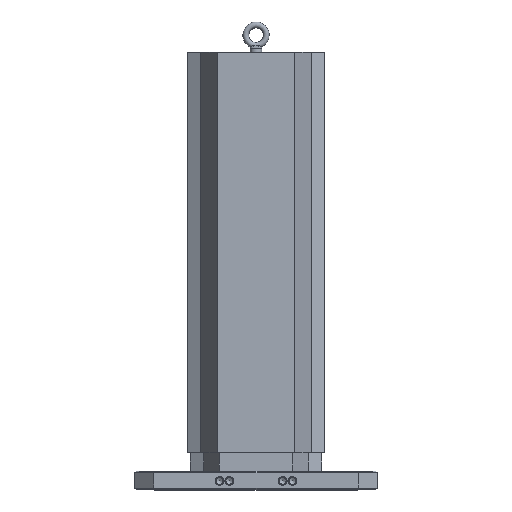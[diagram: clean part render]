
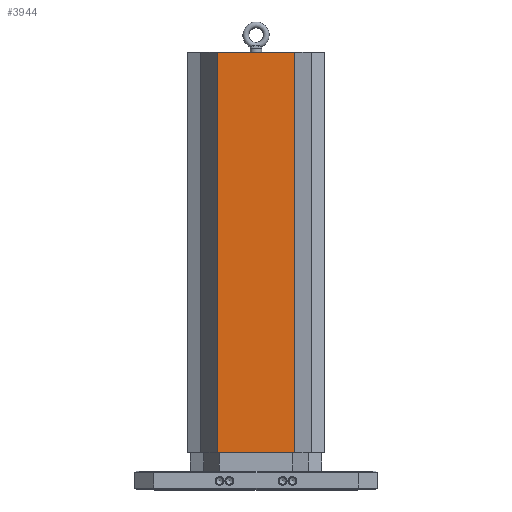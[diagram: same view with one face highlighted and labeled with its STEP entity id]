
A CAD part, top view. The second image highlights one B-rep face of the part: STEP entity #3944.
In plain terms, the highlighted planar face has unit normal (0, 0, 1) as drawn and (0, 0, -1) by its records, which use the part's own axes.
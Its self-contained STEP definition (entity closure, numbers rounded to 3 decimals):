
#101 = ORIENTED_EDGE ( 'NONE', *, *, #10520, .T. ) ;
#137 = CARTESIAN_POINT ( 'NONE',  ( -79.756, 862., -116.992 ) ) ;
#228 = LINE ( 'NONE', #11153, #6502 ) ;
#303 = VECTOR ( 'NONE', #8492, 1000. ) ;
#389 = LINE ( 'NONE', #8669, #10631 ) ;
#558 = CARTESIAN_POINT ( 'NONE',  ( -79.756, 38.1, -116.992 ) ) ;
#1043 = PLANE ( 'NONE',  #2308 ) ;
#1106 = DIRECTION ( 'NONE',  ( 0., 0., -1. ) ) ;
#1111 = EDGE_CURVE ( 'NONE', #11572, #4707, #10456, .T. ) ;
#2202 = DIRECTION ( 'NONE',  ( 0., -1., 0. ) ) ;
#2308 = AXIS2_PLACEMENT_3D ( 'NONE', #8379, #1106, #8502 ) ;
#2348 = CARTESIAN_POINT ( 'NONE',  ( 79.756, 862., -116.992 ) ) ;
#2355 = VECTOR ( 'NONE', #6021, 1000. ) ;
#3005 = CARTESIAN_POINT ( 'NONE',  ( 79.756, 38.1, -116.992 ) ) ;
#3119 = DIRECTION ( 'NONE',  ( 1., 0., 0. ) ) ;
#3944 = ADVANCED_FACE ( 'NONE', ( #8253 ), #1043, .T. ) ;
#4371 = EDGE_CURVE ( 'NONE', #11438, #5743, #228, .T. ) ;
#4707 = VERTEX_POINT ( 'NONE', #3005 ) ;
#4966 = CARTESIAN_POINT ( 'NONE',  ( 79.756, 1053.126, -116.992 ) ) ;
#5125 = ORIENTED_EDGE ( 'NONE', *, *, #1111, .T. ) ;
#5743 = VERTEX_POINT ( 'NONE', #9533 ) ;
#6021 = DIRECTION ( 'NONE',  ( 0., -1., 0. ) ) ;
#6447 = ORIENTED_EDGE ( 'NONE', *, *, #4371, .F. ) ;
#6502 = VECTOR ( 'NONE', #2202, 1000. ) ;
#8253 = FACE_OUTER_BOUND ( 'NONE', #9195, .T. ) ;
#8379 = CARTESIAN_POINT ( 'NONE',  ( -79.756, 1053.126, -116.992 ) ) ;
#8492 = DIRECTION ( 'NONE',  ( 1., 0., 0. ) ) ;
#8502 = DIRECTION ( 'NONE',  ( -1., 0., 0. ) ) ;
#8669 = CARTESIAN_POINT ( 'NONE',  ( -79.756, 862., -116.992 ) ) ;
#8686 = EDGE_CURVE ( 'NONE', #5743, #4707, #8733, .T. ) ;
#8733 = LINE ( 'NONE', #558, #303 ) ;
#9195 = EDGE_LOOP ( 'NONE', ( #6447, #101, #5125, #10059 ) ) ;
#9533 = CARTESIAN_POINT ( 'NONE',  ( -79.756, 38.1, -116.992 ) ) ;
#10059 = ORIENTED_EDGE ( 'NONE', *, *, #8686, .F. ) ;
#10456 = LINE ( 'NONE', #4966, #2355 ) ;
#10520 = EDGE_CURVE ( 'NONE', #11438, #11572, #389, .T. ) ;
#10631 = VECTOR ( 'NONE', #3119, 1000. ) ;
#11153 = CARTESIAN_POINT ( 'NONE',  ( -79.756, 1053.126, -116.992 ) ) ;
#11438 = VERTEX_POINT ( 'NONE', #137 ) ;
#11572 = VERTEX_POINT ( 'NONE', #2348 ) ;
